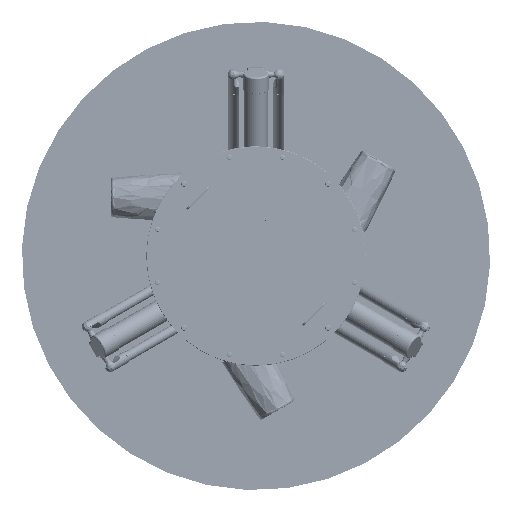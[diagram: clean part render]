
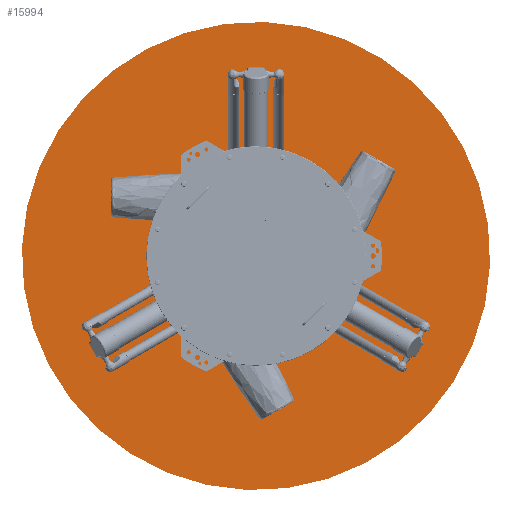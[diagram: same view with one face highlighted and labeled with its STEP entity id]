
A CAD part, front view. The second image highlights one B-rep face of the part: STEP entity #15994.
In plain terms, the highlighted planar face has unit normal (0, -1, 0) as drawn and (0, 1, 0) by its records, which use the part's own axes.
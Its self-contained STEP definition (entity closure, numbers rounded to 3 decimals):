
#15994 = ADVANCED_FACE ( 'NONE', ( #81142 ), #20403, .F. ) ;
#20403 = PLANE ( 'NONE',  #279202 ) ;
#34002 = EDGE_LOOP ( 'NONE', ( #311096, #217032 ) ) ;
#48302 = EDGE_CURVE ( 'NONE', #357224, #164475, #380710, .T. ) ;
#56880 = DIRECTION ( 'NONE',  ( 0., -1., 0. ) ) ;
#80848 = CARTESIAN_POINT ( 'NONE',  ( 0., 370., 0. ) ) ;
#81142 = FACE_OUTER_BOUND ( 'NONE', #34002, .T. ) ;
#110750 = DIRECTION ( 'NONE',  ( 0., 0., -1. ) ) ;
#132159 = AXIS2_PLACEMENT_3D ( 'NONE', #235377, #56880, #265382 ) ;
#141122 = CIRCLE ( 'NONE', #132159, 800. ) ;
#164475 = VERTEX_POINT ( 'NONE', #375007 ) ;
#170082 = DIRECTION ( 'NONE',  ( 0., 0., -1. ) ) ;
#194176 = CARTESIAN_POINT ( 'NONE',  ( 0., 370., -800. ) ) ;
#217032 = ORIENTED_EDGE ( 'NONE', *, *, #239570, .F. ) ;
#235377 = CARTESIAN_POINT ( 'NONE',  ( 0., 370., 0. ) ) ;
#239570 = EDGE_CURVE ( 'NONE', #164475, #357224, #141122, .T. ) ;
#265382 = DIRECTION ( 'NONE',  ( 0., 0., -1. ) ) ;
#279202 = AXIS2_PLACEMENT_3D ( 'NONE', #347438, #348739, #170082 ) ;
#289402 = DIRECTION ( 'NONE',  ( 0., -1., 0. ) ) ;
#305592 = AXIS2_PLACEMENT_3D ( 'NONE', #80848, #289402, #110750 ) ;
#311096 = ORIENTED_EDGE ( 'NONE', *, *, #48302, .F. ) ;
#347438 = CARTESIAN_POINT ( 'NONE',  ( 0., 370., 0. ) ) ;
#348739 = DIRECTION ( 'NONE',  ( 0., -1., 0. ) ) ;
#357224 = VERTEX_POINT ( 'NONE', #194176 ) ;
#375007 = CARTESIAN_POINT ( 'NONE',  ( 0., 370., 800. ) ) ;
#380710 = CIRCLE ( 'NONE', #305592, 800. ) ;
